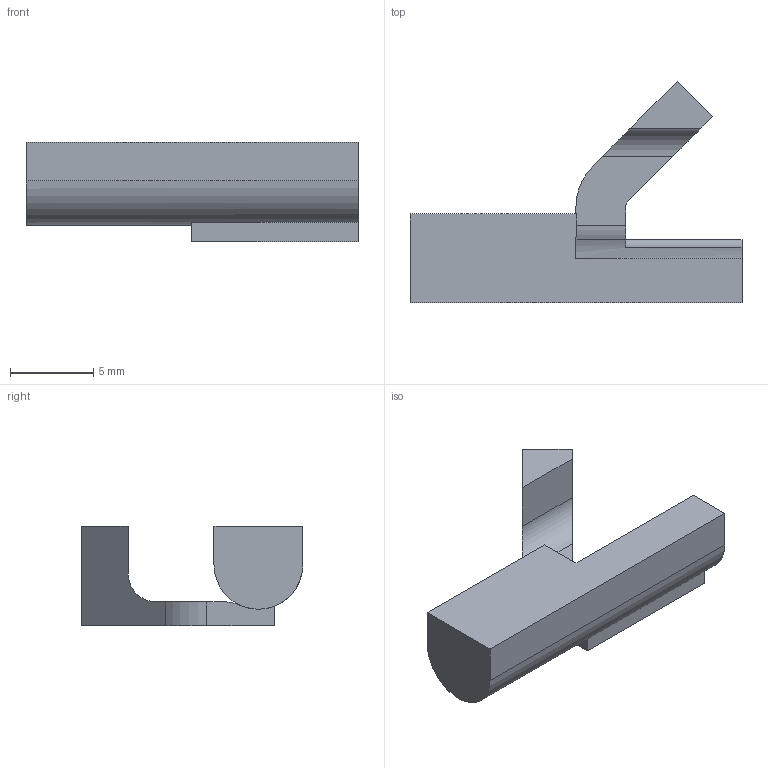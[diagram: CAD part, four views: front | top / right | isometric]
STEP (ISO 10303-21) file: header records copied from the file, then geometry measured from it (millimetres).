
FILE_DESCRIPTION(('STEP AP203'), '1');
FILE_NAME('cut-jig', '2026-02-07T11:32:59', ('user'), (''), 'C3D Converter', 'C3D Toolkit', '');
FILE_SCHEMA(('CONFIG_CONTROL_DESIGN'));
Length unit declared in the file: millimetre
Bounding box: 20 x 13.35 x 6 mm (x, y, z)
Volume: 460.4 mm3; surface area: 573 mm2
Topology: 1 solids, 1 shells, 25 faces, 67 edges, 44 vertices
Faces by surface type: plane 18, cylinder 7
Entity records: 820 total; most frequent: CARTESIAN_POINT 143, ORIENTED_EDGE 134, DIRECTION 132, EDGE_CURVE 67, LINE 50, VECTOR 50, VERTEX_POINT 44, AXIS2_PLACEMENT_3D 41
